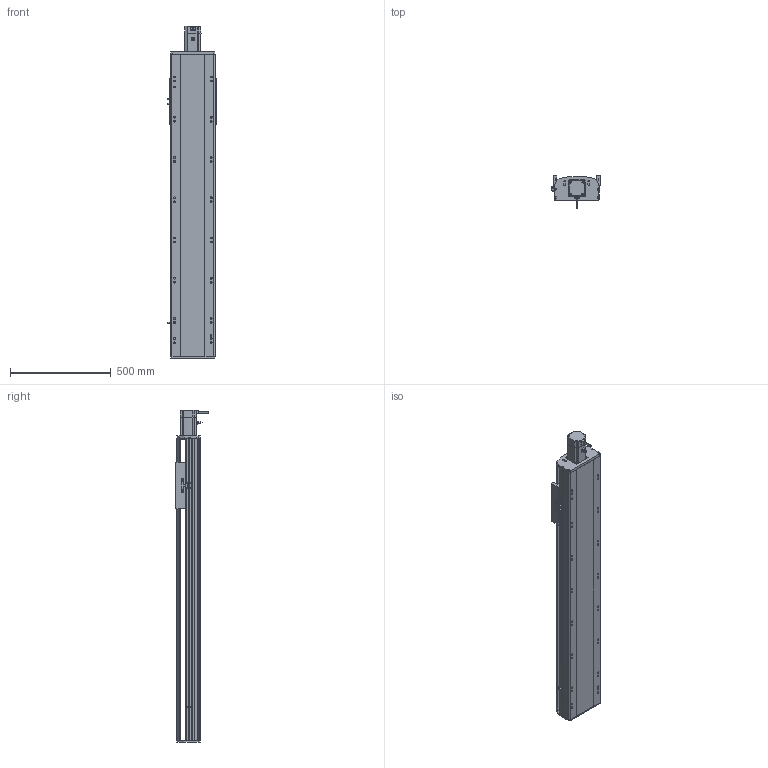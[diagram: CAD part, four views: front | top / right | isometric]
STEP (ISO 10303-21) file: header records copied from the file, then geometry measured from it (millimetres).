
FILE_DESCRIPTION (( 'STEP AP214' ), '1' );
FILE_NAME ('RTH22-XX-1100-E-M75-C4.STEP', '2025-10-24T10:47:47', ( 'Microsoft' ), ( 'Microsoft' ), 'SwSTEP 2.0', 'SolidWorks 2018', '' );
FILE_SCHEMA (( 'AUTOMOTIVE_DESIGN' ));
Length unit declared in the file: millimetre
Products named in the file (9): N_RTH22-E-007奻裔^RTH22-XX-XX-E-M75-C4; N_RTH22-E-011菁釱^RTH22-XX-XX-E-M75-C4; N_OMRON EE-SX672 传感器^RTH22-XX-XX-E-M75-C4; N_RTH22-E-008萇儂啣^RTH22-XX-XX-E-M75-C4; N_750W萇儂^RTH22-XX-XX-E-M75-C4; N_RTH22-E-004-SFS25賑釱^RTH22-XX-XX-E-M75-C4; N_RTH22-GY-013外置感应片^RTH22-XX-XX-E-M75-C4; RTH22-XX-1100-E-M75-C4; N_RTH22-GY-001耜裔^RTH22-XX-XX-E-M75-C4
Assembly tree (10 placements, depth 2):
  RTH22-XX-1100-E-M75-C4
    N_RTH22-E-011菁釱^RTH22-XX-XX-E-M75-C4
    N_RTH22-GY-001耜裔^RTH22-XX-XX-E-M75-C4
    N_RTH22-E-008萇儂啣^RTH22-XX-XX-E-M75-C4
    N_RTH22-E-007奻裔^RTH22-XX-XX-E-M75-C4
    N_RTH22-GY-013外置感应片^RTH22-XX-XX-E-M75-C4
    N_RTH22-E-004-SFS25賑釱^RTH22-XX-XX-E-M75-C4
    N_750W萇儂^RTH22-XX-XX-E-M75-C4
    N_OMRON EE-SX672 传感器^RTH22-XX-XX-E-M75-C4  x3
Bounding box: 238.5 x 160.7 x 1649 mm (x, y, z)
Volume: 20595743.8 mm3; surface area: 2125312.5 mm2
Topology: 10 solids, 10 shells, 1559 faces, 4274 edges, 2759 vertices
Faces by surface type: plane 758, cylinder 460, bspline 279, cone 62
Entity records: 39261 total; most frequent: CARTESIAN_POINT 12265, ORIENTED_EDGE 5516, DIRECTION 5204, EDGE_CURVE 2758, VERTEX_POINT 1795, AXIS2_PLACEMENT_3D 1762, LINE 1680, VECTOR 1680
